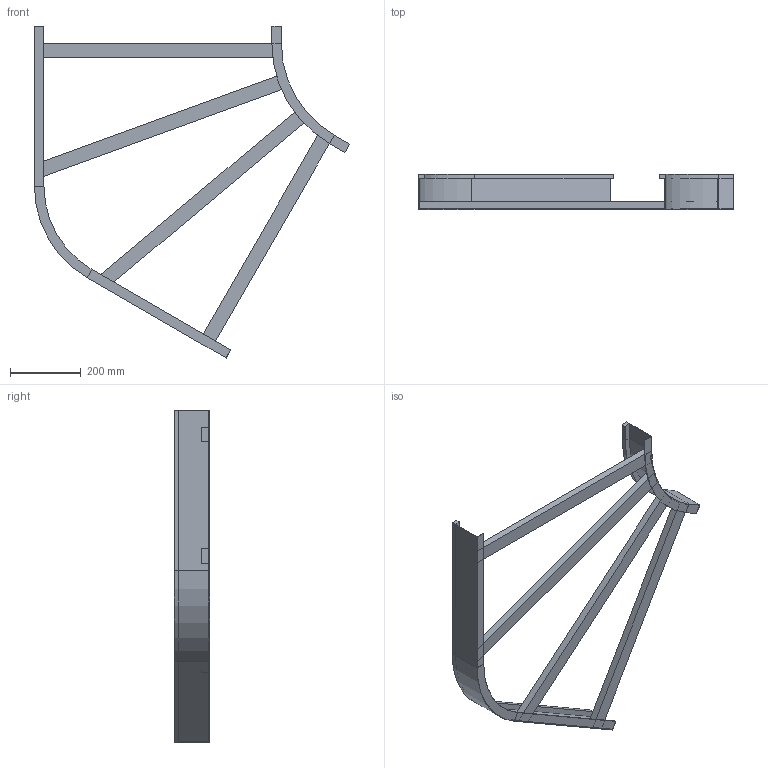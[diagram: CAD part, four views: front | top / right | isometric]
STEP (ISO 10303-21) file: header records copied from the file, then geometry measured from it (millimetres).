
FILE_DESCRIPTION (( 'STEP AP214' ), '1' );
FILE_NAME ('B2_13B3D700.step', '2025-02-21T15:18:31', ( '' ), ( '' ), 'SwSTEP 2.0', 'SolidWorks 2023', '' );
FILE_SCHEMA (( 'AUTOMOTIVE_DESIGN' ));
Length unit declared in the file: millimetre
Products named in the file (5): B2_LONGH.ESTERNO 60°_H100_R300+700; TRAVERSINO_800_SCANTONATO; B2_13B3D700; B2_LONGH.INTERNO 60°_H100_R300; TRAVERSINO_700
Assembly tree (6 placements, depth 2):
  B2_13B3D700
    B2_LONGH.INTERNO 60°_H100_R300
    B2_LONGH.ESTERNO 60°_H100_R300+700
    TRAVERSINO_700  x2
    TRAVERSINO_800_SCANTONATO  x2
Bounding box: 893.3 x 100 x 941.03 mm (x, y, z)
Volume: 3082911.1 mm3; surface area: 828898.7 mm2
Topology: 6 solids, 6 shells, 76 faces, 160 edges, 96 vertices
Faces by surface type: plane 68, cylinder 8
Entity records: 1830 total; most frequent: DIRECTION 298, CARTESIAN_POINT 289, ORIENTED_EDGE 272, EDGE_CURVE 136, LINE 120, VECTOR 120, AXIS2_PLACEMENT_3D 89, VERTEX_POINT 80
